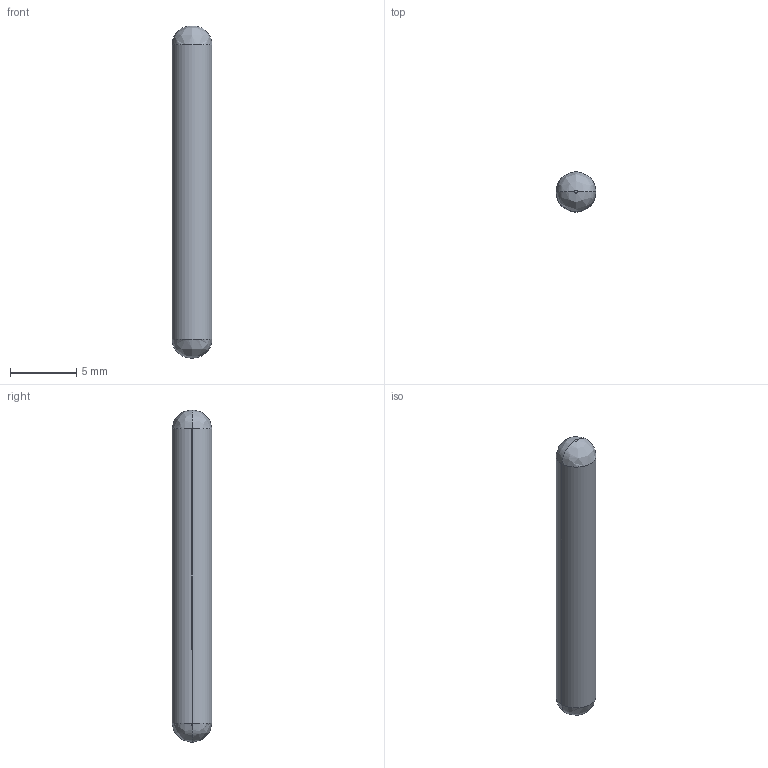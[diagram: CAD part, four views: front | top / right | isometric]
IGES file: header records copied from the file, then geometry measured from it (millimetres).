
Start section: SolidWorks IGES FILE using analytic representation for surfaces
Global section: file name: C:\Documents and Settings\lecoutey\Bureau\GP 2029\2029.110.00.IGS; native system: SolidWorks 2004 by SolidWorks Corporation; preprocessor: Version 5.3; author: lecoutey; date: 050329.160657; units: millimetre
Bounding box: 3 x 3 x 25 mm (x, y, z)
Surface area: 236.7 mm2 (no closed solid volume)
Topology: 0 solids, 0 shells, 8 faces, 56 edges, 56 vertices
Faces by surface type: bspline 6, revolution 2
